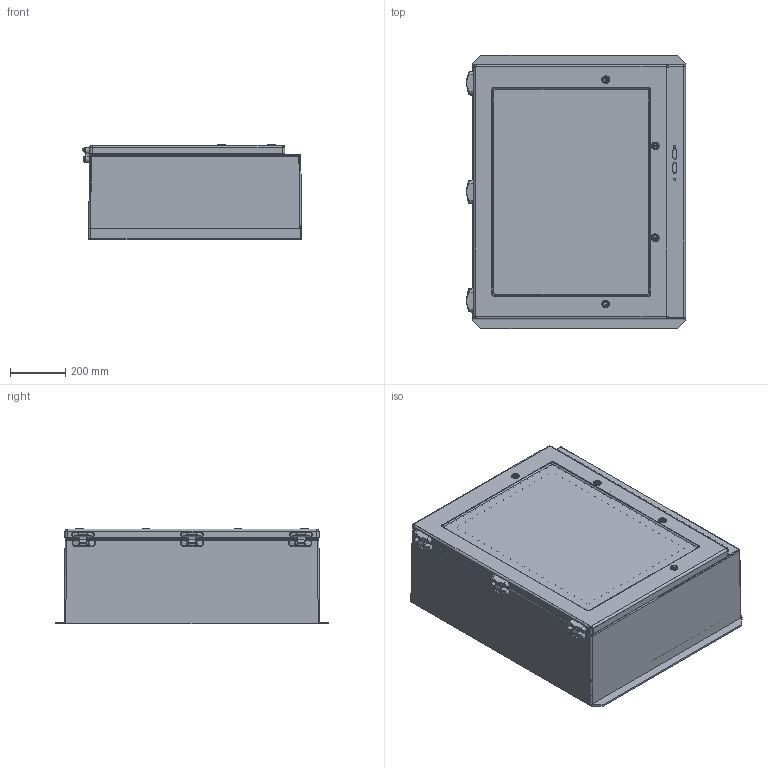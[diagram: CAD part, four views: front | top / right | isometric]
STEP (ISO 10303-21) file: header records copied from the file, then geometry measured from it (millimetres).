
FILE_DESCRIPTION (( 'STEP AP203' ), '1' );
FILE_NAME ('a36hs3012gqrlp.STEP', '2010-11-19T19:30:05', ( 'Hoffman User' ), ( 'Hoffman Enclosures' ), 'SwSTEP 2.0', 'SolidWorks 2009', '' );
FILE_SCHEMA (( 'CONFIG_CONTROL_DESIGN' ));
Length unit declared in the file: inch
Products named in the file (19): A17WD_HingeBody; 87578440_latch; GroundBar_8757630X_36in; 1000-U134_ASM; 1000-101-PF_PRT; BrktDoorCatch; cam_1000-25; a36hs3012gqrlp; BodyAssy_36x30x12; Body_36x30x12; GroundBarLower_87576461; GroundBarUpper_87576310; DoorAssy_36x30; Door_36x30; 1000-U142_ASM; 1000-277-01; 1000-03; 1000-318; A17WD_HingeDoor
Assembly tree (26 placements, depth 5):
  a36hs3012gqrlp
    BodyAssy_36x30x12
      GroundBar_8757630X_36in
      A17WD_HingeBody  x3
      GroundBarLower_87576461
      Body_36x30x12
      GroundBarUpper_87576310
    DoorAssy_36x30
      A17WD_HingeDoor  x3
      87578440_latch  x4
        1000-U142_ASM
          1000-277-01
          1000-03
          1000-318
        cam_1000-25
        1000-U134_ASM
          1000-101-PF_PRT  x2
      BrktDoorCatch
      Door_36x30
Bounding box: 794.66 x 989.33 x 347.07 mm (x, y, z)
Volume: 11317985.3 mm3; surface area: 6005839.3 mm2
Topology: 27 solids, 51 shells, 2554 faces, 6301 edges, 3878 vertices
Faces by surface type: plane 1176, cylinder 980, bspline 222, cone 116, torus 44, sphere 16
Entity records: 41924 total; most frequent: CARTESIAN_POINT 12134, DIRECTION 5792, ORIENTED_EDGE 5726, EDGE_CURVE 2867, AXIS2_PLACEMENT_3D 2046, VERTEX_POINT 1766, LINE 1700, VECTOR 1700
